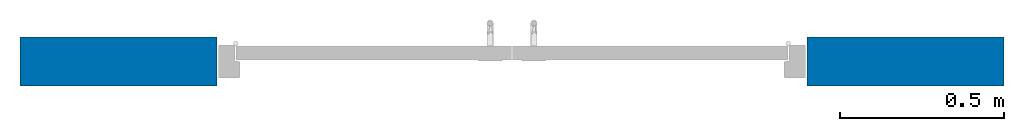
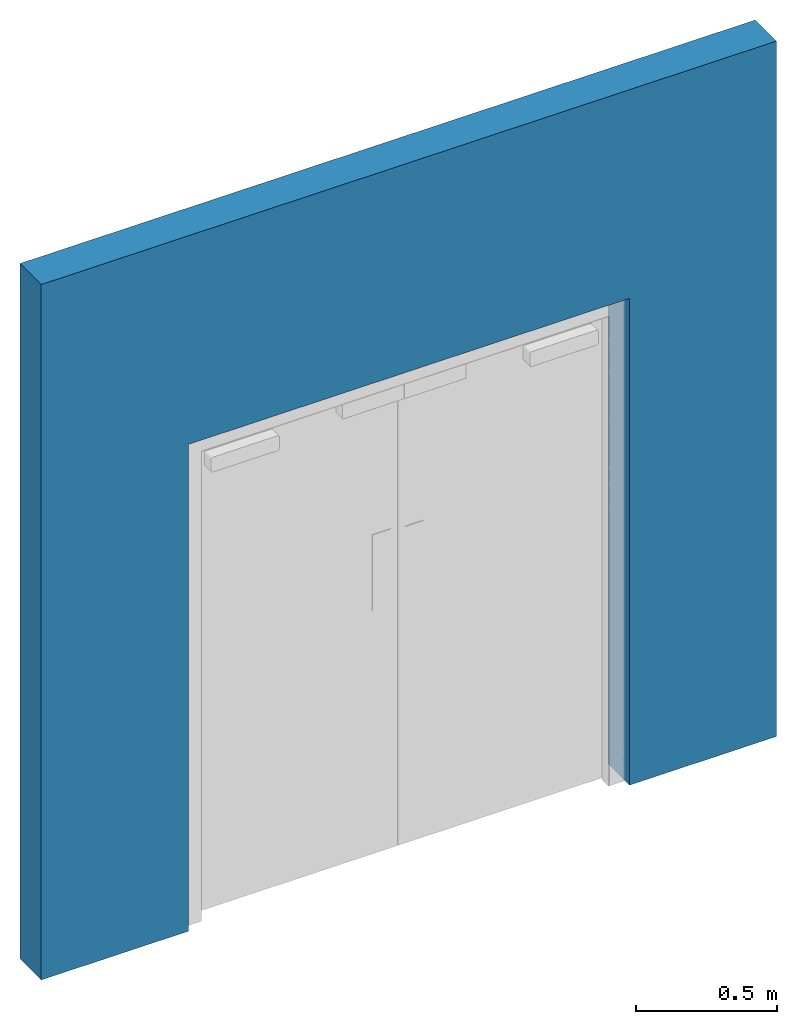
# One storey, incomplete: 1 wall, 1 opening.
"""IFC2X3 building model written with IfcOpenShell, lengths in millimetres."""

from ifc_helpers import new_model, entity, si_unit, converted_unit, derived_unit, direction, frame, frame_2d, origin, place, context, subcontext, project, spatial, rectangle, extrude, material, layer, layer_set, layer_usage, type_object, element, save


model = new_model("IFC2X3")

# Units and contexts
model_context = context("Model", 3, precision=0.01, world=origin(), true_north=direction((6.12303176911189e-17, 1.0)))
body_context = subcontext(model_context, "Body", "Model", "MODEL_VIEW")
ifc_project = project(units=[si_unit("LENGTHUNIT", "METRE", prefix="MILLI"), si_unit("AREAUNIT", "SQUARE_METRE"), si_unit("VOLUMEUNIT", "CUBIC_METRE"), converted_unit("PLANEANGLEUNIT", "DEGREE", entity("IfcRatioMeasure", 0.0174532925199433), si_unit("PLANEANGLEUNIT", "RADIAN"), dimensions=[0, 0, 0, 0, 0, 0, 0]), si_unit("MASSUNIT", "GRAM", prefix="KILO"), si_unit("TIMEUNIT", "SECOND"), si_unit("FREQUENCYUNIT", "HERTZ"), si_unit("THERMODYNAMICTEMPERATUREUNIT", "DEGREE_CELSIUS"), derived_unit("THERMALTRANSMITTANCEUNIT", [(si_unit("MASSUNIT", "GRAM", prefix="KILO"), 1), (si_unit("THERMODYNAMICTEMPERATUREUNIT", "KELVIN"), -1), (si_unit("TIMEUNIT", "SECOND"), -3)]), derived_unit("VOLUMETRICFLOWRATEUNIT", [(si_unit("LENGTHUNIT", "METRE"), 3), (si_unit("TIMEUNIT", "SECOND"), -1)]), si_unit("ELECTRICCURRENTUNIT", "AMPERE"), si_unit("ELECTRICVOLTAGEUNIT", "VOLT"), si_unit("POWERUNIT", "WATT"), si_unit("FORCEUNIT", "NEWTON", prefix="KILO"), si_unit("ILLUMINANCEUNIT", "LUX"), si_unit("LUMINOUSFLUXUNIT", "LUMEN"), si_unit("LUMINOUSINTENSITYUNIT", "CANDELA"), si_unit("PRESSUREUNIT", "PASCAL")], contexts=[model_context])

# Site, building, storey
site_placement = place(None, origin())
site = spatial("IfcSite", under=ifc_project, at=site_placement, Name="Default", CompositionType="ELEMENT")
building_placement = place(site_placement, origin())
building = spatial("IfcBuilding", under=site, at=building_placement, CompositionType="ELEMENT")
storey_placement = place(building_placement, origin())
storey = spatial("IfcBuildingStorey", under=building, at=storey_placement, Name="Level 1", CompositionType="ELEMENT", Elevation=0.0)

# Wall, opening
ifc_material = material(Name="nbl_Concept")
ifc_layer = layer(ifc_material, 150.0)
ifc_layer_set = layer_set([ifc_layer], Name="Basic Wall:NBS_Int_Concept")
ifc_layer_usage = layer_usage(ifc_layer_set, "AXIS2", "POSITIVE", -75.0)
wall_type = type_object("IfcWallType", Name="Basic Wall:NBS_Int_Concept", PredefinedType="STANDARD", material=ifc_layer_set)
wall_placement = place(storey_placement, frame((-1500.0, 0.0, 0.0)))
wall = element("IfcWallStandardCase", 1, at=wall_placement, inside=storey, type_object=wall_type, material=ifc_layer_usage, Name="Basic Wall:NBS_Int_Concept:2301", ObjectType="Basic Wall:NBS_Int_Concept:2340", context=body_context, shape_type="SweptSolid", body=[
    extrude(rectangle(XDim=3000.0, YDim=150.0, at=frame_2d((1500.0, 0.0), x_axis=(-1.0, 0.0))), origin(), (0.0, 0.0, 1.0), 3000.0),
])
opening_placement = place(wall_placement, frame((600.0, -75.0, 0.0)))
element("IfcOpeningElement", 2, at=opening_placement, cuts=wall, Name="NBS_AssaAbloyLtd_DrsetSym_AASDMetalAccessControlDoor_Double:1800x2100mm:1", ObjectType="Opening", context=body_context, shape_type="SweptSolid", body=[
    extrude(rectangle(XDim=2100.0, YDim=1800.0, at=frame_2d((1050.0, 900.0), x_axis=(1.0, 0.0))), frame((0.0, 0.0, 0.0), z_axis=(0.0, 1.0, 0.0), x_axis=(0.0, 0.0, 1.0)), (0.0, 0.0, 1.0), 150.0),
])

save(model, "model.ifc")
